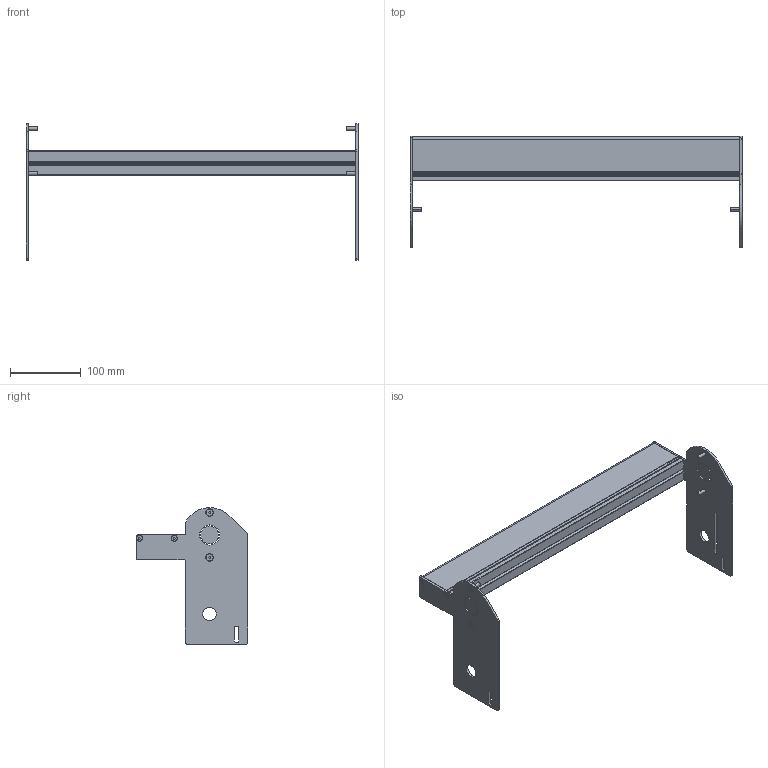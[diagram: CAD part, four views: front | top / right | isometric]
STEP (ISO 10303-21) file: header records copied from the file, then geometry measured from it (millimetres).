
FILE_DESCRIPTION((''),'2;1');
FILE_NAME('350712-18_ASM','2023-03-22T',('jenni.wallner'),(''),'PRO/ENGINEER BY PARAMETRIC TECHNOLOGY CORPORATION, 2012420','PRO/ENGINEER BY PARAMETRIC TECHNOLOGY CORPORATION, 2012420','');
FILE_SCHEMA(('CONFIG_CONTROL_DESIGN'));
Length unit declared in the file: inch
Products named in the file (6): 350669-18; 350667; 350668; 930412M; 930516M; 350712-18_ASM
Assembly tree (11 placements, depth 2):
  350712-18_ASM
    350669-18
    350667
    350668
    930412M  x4
    930516M  x4
Bounding box: 469.54 x 158.09 x 193.27 mm (x, y, z)
Volume: 478734.9 mm3; surface area: 315098.5 mm2
Topology: 11 solids, 11 shells, 334 faces, 872 edges, 568 vertices
Faces by surface type: plane 150, cylinder 136, cone 48
Entity records: 7775 total; most frequent: DIRECTION 1396, CARTESIAN_POINT 1323, ORIENTED_EDGE 1288, EDGE_CURVE 644, AXIS2_PLACEMENT_3D 505, VERTEX_POINT 424, VECTOR 386, LINE 386
